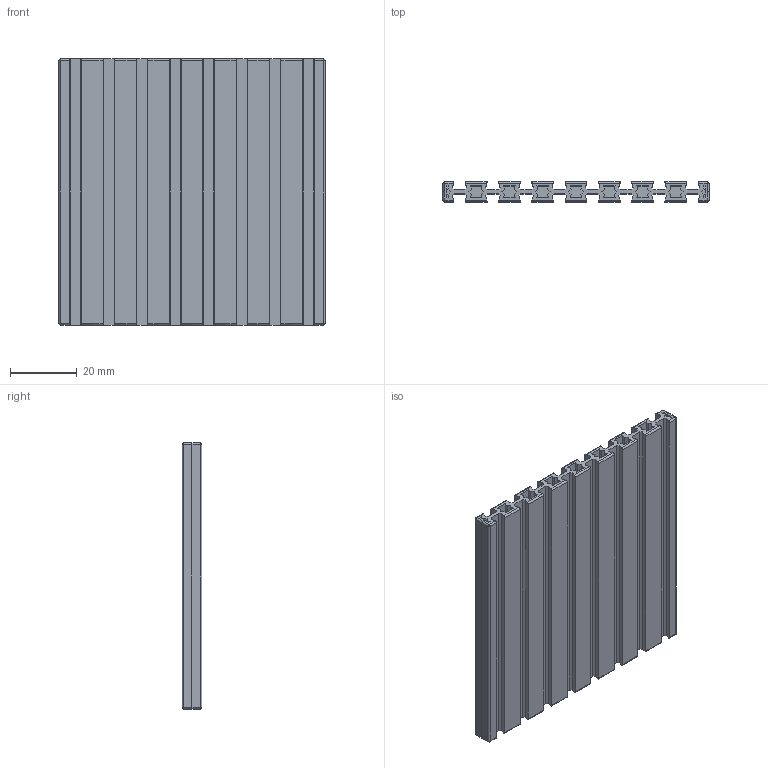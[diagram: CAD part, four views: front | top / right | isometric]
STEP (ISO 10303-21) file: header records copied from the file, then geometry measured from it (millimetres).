
FILE_DESCRIPTION(/* description */ (''),/* implementation_level */ '2;1');
FILE_NAME(/* name */ 'C:/Users/priba/Downloads/Brick8x8x0.6ff.step',/* time_stamp */ '2022-04-03T11:03:53+02:00',/* author */ (''),/* organization */ (''),/* preprocessor_version */ 'ST-DEVELOPER v18.1',/* originating_system */ 'Autodesk Translation Framework v10.13.0.1454',/* authorisation */ '');
FILE_SCHEMA (('AUTOMOTIVE_DESIGN { 1 0 10303 214 3 1 1 }'));
Length unit declared in the file: millimetre
Products named in the file (1): Brick8x8x0.6ff
Bounding box: 80 x 6 x 80 mm (x, y, z)
Volume: 19107.5 mm3; surface area: 31134.9 mm2
Topology: 1 solids, 1 shells, 255 faces, 704 edges, 460 vertices
Faces by surface type: plane 199, cylinder 48, sphere 8
Entity records: 8028 total; most frequent: CARTESIAN_POINT 1420, ORIENTED_EDGE 1408, DIRECTION 1308, EDGE_CURVE 704, LINE 612, VECTOR 612, VERTEX_POINT 460, AXIS2_PLACEMENT_3D 348
